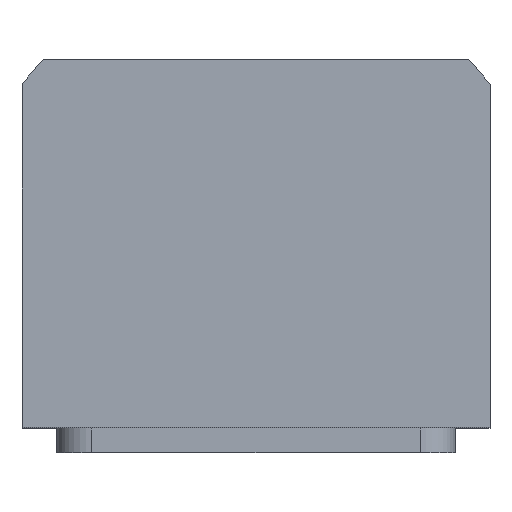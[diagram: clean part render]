
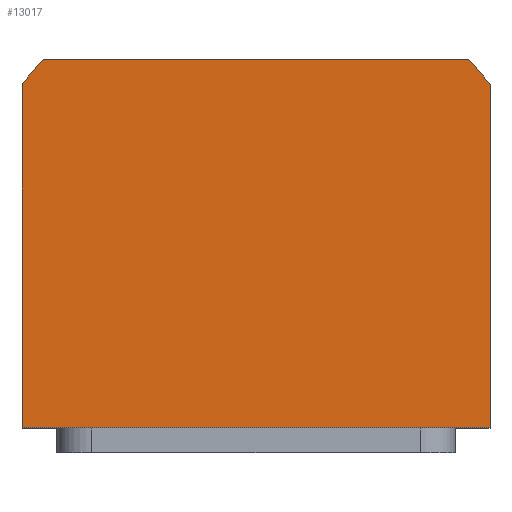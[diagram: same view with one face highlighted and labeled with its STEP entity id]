
A CAD part, top view. The second image highlights one B-rep face of the part: STEP entity #13017.
In plain terms, the highlighted planar face has unit normal (0, 0, 1).
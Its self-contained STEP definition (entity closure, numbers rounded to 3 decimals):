
#371 = VECTOR ( 'NONE', #569, 1000. ) ;
#557 = DIRECTION ( 'NONE',  ( 0., -1., 0. ) ) ;
#558 = EDGE_CURVE ( 'NONE', #5739, #8305, #1241, .T. ) ;
#569 = DIRECTION ( 'NONE',  ( -1., 0., 0. ) ) ;
#897 = ORIENTED_EDGE ( 'NONE', *, *, #7402, .T. ) ;
#924 = FACE_OUTER_BOUND ( 'NONE', #1909, .T. ) ;
#962 = AXIS2_PLACEMENT_3D ( 'NONE', #9341, #9484, #2433 ) ;
#1241 = CIRCLE ( 'NONE', #13912, 58.5 ) ;
#1559 = ORIENTED_EDGE ( 'NONE', *, *, #4838, .T. ) ;
#1845 = CARTESIAN_POINT ( 'NONE',  ( -42.688, 40., 52.5 ) ) ;
#1909 = EDGE_LOOP ( 'NONE', ( #1559, #6266, #2349, #10079, #9187, #897 ) ) ;
#1930 = CARTESIAN_POINT ( 'NONE',  ( 47., 34.832, 52.5 ) ) ;
#2073 = EDGE_CURVE ( 'NONE', #7755, #13552, #12770, .T. ) ;
#2349 = ORIENTED_EDGE ( 'NONE', *, *, #2073, .T. ) ;
#2360 = PLANE ( 'NONE',  #6216 ) ;
#2378 = CARTESIAN_POINT ( 'NONE',  ( -42.688, 40., 52.5 ) ) ;
#2406 = DIRECTION ( 'NONE',  ( 0., 1., 0. ) ) ;
#2433 = DIRECTION ( 'NONE',  ( 1., 0., 0. ) ) ;
#3286 = LINE ( 'NONE', #8468, #11799 ) ;
#3354 = EDGE_CURVE ( 'NONE', #9633, #7755, #14753, .T. ) ;
#3853 = LINE ( 'NONE', #10139, #12391 ) ;
#4838 = EDGE_CURVE ( 'NONE', #5376, #9633, #3853, .T. ) ;
#5376 = VERTEX_POINT ( 'NONE', #12639 ) ;
#5739 = VERTEX_POINT ( 'NONE', #2378 ) ;
#5915 = DIRECTION ( 'NONE',  ( 1., 0., 0. ) ) ;
#6216 = AXIS2_PLACEMENT_3D ( 'NONE', #12863, #8194, #5915 ) ;
#6266 = ORIENTED_EDGE ( 'NONE', *, *, #3354, .T. ) ;
#7402 = EDGE_CURVE ( 'NONE', #8305, #5376, #3286, .T. ) ;
#7414 = CARTESIAN_POINT ( 'NONE',  ( 0., 0., 52.5 ) ) ;
#7755 = VERTEX_POINT ( 'NONE', #1930 ) ;
#8194 = DIRECTION ( 'NONE',  ( 0., 0., 1. ) ) ;
#8305 = VERTEX_POINT ( 'NONE', #9101 ) ;
#8468 = CARTESIAN_POINT ( 'NONE',  ( -47., -34., 52.5 ) ) ;
#8548 = DIRECTION ( 'NONE',  ( 1., 0., 0. ) ) ;
#8708 = DIRECTION ( 'NONE',  ( 0., 0., 1. ) ) ;
#9101 = CARTESIAN_POINT ( 'NONE',  ( -47., 34.832, 52.5 ) ) ;
#9187 = ORIENTED_EDGE ( 'NONE', *, *, #558, .T. ) ;
#9237 = EDGE_CURVE ( 'NONE', #13552, #5739, #10869, .T. ) ;
#9341 = CARTESIAN_POINT ( 'NONE',  ( 0., 0., 52.5 ) ) ;
#9479 = VECTOR ( 'NONE', #2406, 1000. ) ;
#9484 = DIRECTION ( 'NONE',  ( 0., 0., 1. ) ) ;
#9550 = CARTESIAN_POINT ( 'NONE',  ( 42.688, 40., 52.5 ) ) ;
#9633 = VERTEX_POINT ( 'NONE', #14943 ) ;
#10079 = ORIENTED_EDGE ( 'NONE', *, *, #9237, .T. ) ;
#10139 = CARTESIAN_POINT ( 'NONE',  ( 47., -34., 52.5 ) ) ;
#10869 = LINE ( 'NONE', #1845, #371 ) ;
#11569 = CARTESIAN_POINT ( 'NONE',  ( 47., 34.832, 52.5 ) ) ;
#11799 = VECTOR ( 'NONE', #557, 1000. ) ;
#12391 = VECTOR ( 'NONE', #14833, 1000. ) ;
#12639 = CARTESIAN_POINT ( 'NONE',  ( -47., -34., 52.5 ) ) ;
#12770 = CIRCLE ( 'NONE', #962, 58.5 ) ;
#12863 = CARTESIAN_POINT ( 'NONE',  ( 0., 0., 52.5 ) ) ;
#13017 = ADVANCED_FACE ( 'NONE', ( #924 ), #2360, .T. ) ;
#13552 = VERTEX_POINT ( 'NONE', #9550 ) ;
#13912 = AXIS2_PLACEMENT_3D ( 'NONE', #7414, #8708, #8548 ) ;
#14753 = LINE ( 'NONE', #11569, #9479 ) ;
#14833 = DIRECTION ( 'NONE',  ( 1., 0., 0. ) ) ;
#14943 = CARTESIAN_POINT ( 'NONE',  ( 47., -34., 52.5 ) ) ;
